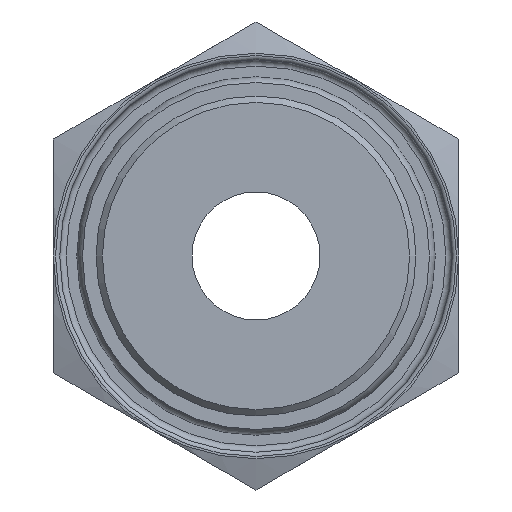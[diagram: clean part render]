
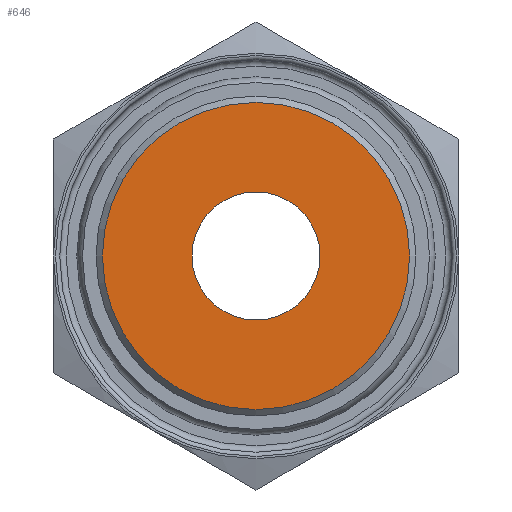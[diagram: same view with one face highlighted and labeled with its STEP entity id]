
A CAD part, front view. The second image highlights one B-rep face of the part: STEP entity #646.
In plain terms, the highlighted planar face has unit normal (0, -1, 0).
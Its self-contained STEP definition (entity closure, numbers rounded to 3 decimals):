
#72=FACE_BOUND('',#166,.T.);
#83=PLANE('',#794);
#116=FACE_OUTER_BOUND('',#165,.T.);
#165=EDGE_LOOP('',(#501));
#166=EDGE_LOOP('',(#502));
#258=CIRCLE('',#778,3.);
#266=CIRCLE('',#789,7.2);
#305=VERTEX_POINT('',#1123);
#313=VERTEX_POINT('',#1144);
#369=EDGE_CURVE('',#305,#305,#258,.T.);
#378=EDGE_CURVE('',#313,#313,#266,.T.);
#501=ORIENTED_EDGE('',*,*,#378,.F.);
#502=ORIENTED_EDGE('',*,*,#369,.T.);
#646=ADVANCED_FACE('',(#116,#72),#83,.T.);
#778=AXIS2_PLACEMENT_3D('',#1125,#914,#915);
#789=AXIS2_PLACEMENT_3D('',#1145,#937,#938);
#794=AXIS2_PLACEMENT_3D('',#1155,#949,#950);
#914=DIRECTION('center_axis',(0.,1.,0.));
#915=DIRECTION('ref_axis',(1.,0.,0.));
#937=DIRECTION('center_axis',(0.,1.,0.));
#938=DIRECTION('ref_axis',(-1.,0.,0.));
#949=DIRECTION('center_axis',(0.,-1.,0.));
#950=DIRECTION('ref_axis',(0.,0.,-1.));
#1123=CARTESIAN_POINT('',(-3.,-7.2,0.));
#1125=CARTESIAN_POINT('Origin',(0.,-7.2,0.));
#1144=CARTESIAN_POINT('',(7.2,-7.2,0.));
#1145=CARTESIAN_POINT('Origin',(0.,-7.2,0.));
#1155=CARTESIAN_POINT('Origin',(0.,-7.2,0.));
